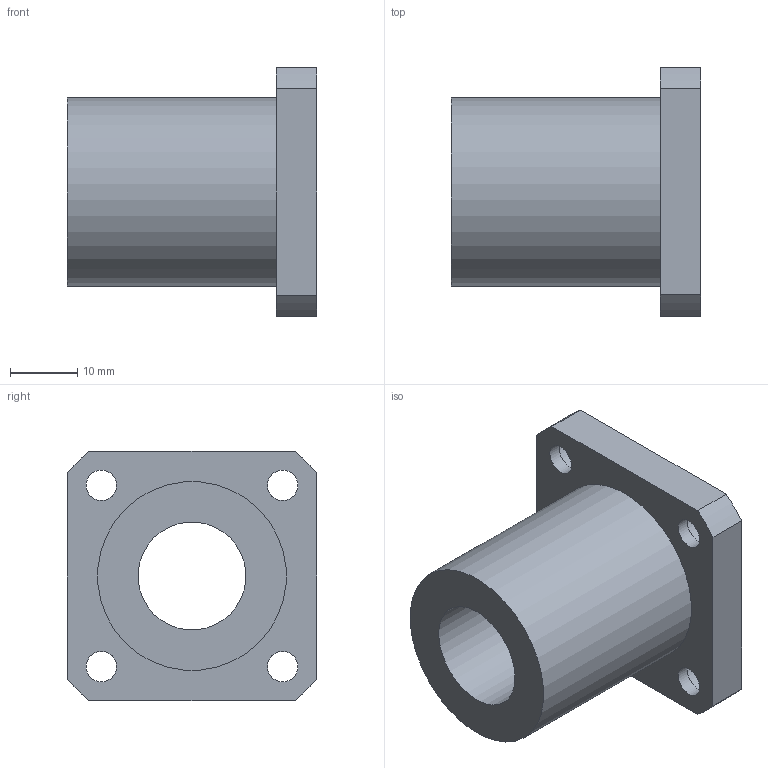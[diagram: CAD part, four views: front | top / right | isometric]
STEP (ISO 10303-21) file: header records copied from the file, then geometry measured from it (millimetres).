
FILE_DESCRIPTION(/* description */ (''),/* implementation_level */ '2;1');
FILE_NAME(/* name */ 'LMK16UU',/* time_stamp */ '2019-07-09T15:13:08+02:00',/* author */ ('VĂ©gh MĂˇtĂ©'),/* organization */ ('Bearing Kft'),/* preprocessor_version */ 'ST-DEVELOPER v16.7',/* originating_system */ 'DEX',/* authorisation */ $);
FILE_SCHEMA (('AUTOMOTIVE_DESIGN {1 0 10303 214 3 1 1}'));
Length unit declared in the file: millimetre
Products named in the file (1): LMK16UU
Bounding box: 37 x 37 x 37 mm (x, y, z)
Volume: 18899 mm3; surface area: 8113.2 mm2
Topology: 1 solids, 1 shells, 327 faces, 822 edges, 548 vertices
Faces by surface type: plane 251, bspline 59, cylinder 17
Full cylindrical faces by diameter (mm): 4.5 x4, 7.5 x4, 16 x1, 28 x1
Entity records: 12456 total; most frequent: CARTESIAN_POINT 4955, ORIENTED_EDGE 1620, DIRECTION 1264, EDGE_CURVE 810, LINE 658, VECTOR 658, VERTEX_POINT 548, EDGE_LOOP 400
